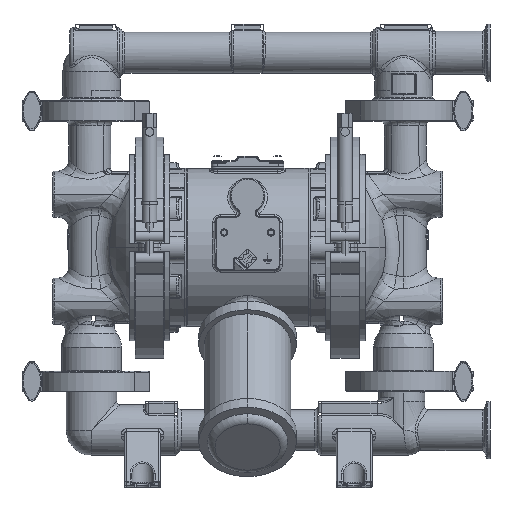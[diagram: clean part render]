
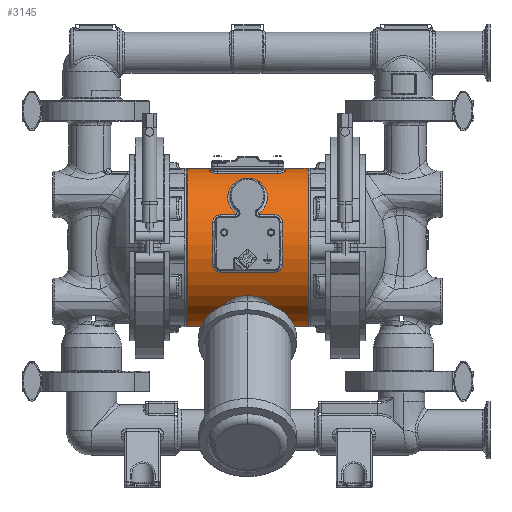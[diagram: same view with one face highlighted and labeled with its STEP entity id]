
A CAD part, top view. The second image highlights one B-rep face of the part: STEP entity #3145.
In plain terms, the highlighted cylindrical face has radius 69.85 mm (diameter 139.7 mm), a partial arc.
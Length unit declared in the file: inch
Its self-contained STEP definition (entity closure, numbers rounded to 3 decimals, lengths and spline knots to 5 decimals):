
#559=DIRECTION('',(1.,0.,0.));
#560=VECTOR('',#559,0.795);
#561=CARTESIAN_POINT('',(1.31,2.75,0.));
#562=LINE('',#561,#560);
#571=DIRECTION('',(1.,0.,0.));
#572=VECTOR('',#571,0.795);
#573=CARTESIAN_POINT('',(-2.105,2.75,0.));
#574=LINE('',#573,#572);
#1147=CARTESIAN_POINT('',(-1.31,2.64162,-0.76444));
#1149=CARTESIAN_POINT('',(-1.31,0.,0.));
#1150=DIRECTION('',(-1.,0.,0.));
#1151=DIRECTION('',(0.,0.961,-0.278));
#1152=AXIS2_PLACEMENT_3D('',#1149,#1150,#1151);
#1180=CARTESIAN_POINT('',(-1.31,1.61417,
-2.22642));
#1181=CARTESIAN_POINT('',(-1.31,1.59144,
-2.2429));
#1182=CARTESIAN_POINT('',(-1.30677,1.54774,
-2.27352));
#1183=CARTESIAN_POINT('',(-1.29563,1.48834,
-2.31276));
#1184=CARTESIAN_POINT('',(-1.28015,1.43434,
-2.34657));
#1185=CARTESIAN_POINT('',(-1.26151,1.38558,
-2.37563));
#1186=CARTESIAN_POINT('',(-1.24047,1.34181,
-2.40058));
#1187=CARTESIAN_POINT('',(-1.21742,1.30287,
-2.4219));
#1188=CARTESIAN_POINT('',(-1.1926,1.26881,
-2.43989));
#1189=CARTESIAN_POINT('',(-1.16609,1.23975,
-2.45475));
#1190=CARTESIAN_POINT('',(-1.13794,1.21615,
-2.4665));
#1191=CARTESIAN_POINT('',(-1.10831,1.19868,
-2.47502));
#1192=CARTESIAN_POINT('',(-1.07806,1.18849,
-2.47992));
#1193=CARTESIAN_POINT('',(-1.05923,1.18649,
-2.48087));
#1194=CARTESIAN_POINT('',(-1.05,1.1865,
-2.48087));
#1205=DIRECTION('',(1.,0.,0.));
#1206=VECTOR('',#1205,2.1);
#1207=CARTESIAN_POINT('',(-1.05,1.1865,
-2.48087));
#1208=LINE('',#1207,#1206);
#1230=CARTESIAN_POINT('',(1.05,1.1865,-2.48087));
#1231=CARTESIAN_POINT('',(1.05923,1.18649,-2.48087));
#1232=CARTESIAN_POINT('',(1.07806,1.18849,-2.47992));
#1233=CARTESIAN_POINT('',(1.10831,1.19868,-2.47502));
#1234=CARTESIAN_POINT('',(1.13794,1.21615,-2.4665));
#1235=CARTESIAN_POINT('',(1.16609,1.23975,-2.45475));
#1236=CARTESIAN_POINT('',(1.1926,1.26881,-2.43989));
#1237=CARTESIAN_POINT('',(1.21742,1.30287,-2.4219));
#1238=CARTESIAN_POINT('',(1.24047,1.34181,-2.40058));
#1239=CARTESIAN_POINT('',(1.26151,1.38558,-2.37563));
#1240=CARTESIAN_POINT('',(1.28015,1.43434,-2.34657));
#1241=CARTESIAN_POINT('',(1.29563,1.48834,-2.31276));
#1242=CARTESIAN_POINT('',(1.30677,1.54774,-2.27352));
#1243=CARTESIAN_POINT('',(1.31,1.59144,-2.2429));
#1244=CARTESIAN_POINT('',(1.31,1.61417,-2.22642));
#1246=CARTESIAN_POINT('',(1.31,2.64162,-0.76444));
#1269=CARTESIAN_POINT('',(1.31,0.,0.));
#1270=DIRECTION('',(1.,0.,0.));
#1271=DIRECTION('',(0.,0.587,-0.81));
#1272=AXIS2_PLACEMENT_3D('',#1269,#1270,#1271);
#1284=CARTESIAN_POINT('',(-1.31,0.,0.));
#1285=DIRECTION('',(-1.,0.,0.));
#1286=DIRECTION('',(0.,0.968,0.249));
#1287=AXIS2_PLACEMENT_3D('',#1284,#1285,#1286);
#1305=CARTESIAN_POINT('',(-1.05,2.58454,
0.9395));
#1306=CARTESIAN_POINT('',(-1.06915,2.58454,
0.9395));
#1307=CARTESIAN_POINT('',(-1.10657,2.586,
0.93549));
#1308=CARTESIAN_POINT('',(-1.16145,2.59256,
0.91726));
#1309=CARTESIAN_POINT('',(-1.21094,2.60291,
0.88759));
#1310=CARTESIAN_POINT('',(-1.25313,2.61634,
0.84735));
#1311=CARTESIAN_POINT('',(-1.28546,2.63179,
0.79825));
#1312=CARTESIAN_POINT('',(-1.30566,2.64816,
0.74224));
#1313=CARTESIAN_POINT('',(-1.31,2.65832,
0.70442));
#1314=CARTESIAN_POINT('',(-1.31,2.66331,
0.68505));
#1325=DIRECTION('',(-1.,0.,0.));
#1326=VECTOR('',#1325,2.1);
#1327=CARTESIAN_POINT('',(1.05,2.58454,0.9395));
#1328=LINE('',#1327,#1326);
#1345=CARTESIAN_POINT('',(1.31,2.66331,0.68505));
#1346=CARTESIAN_POINT('',(1.31,2.65832,0.70442));
#1347=CARTESIAN_POINT('',(1.30566,2.64816,0.74224));
#1348=CARTESIAN_POINT('',(1.28546,2.63179,0.79825));
#1349=CARTESIAN_POINT('',(1.25313,2.61634,0.84735));
#1350=CARTESIAN_POINT('',(1.21094,2.60291,0.88759));
#1351=CARTESIAN_POINT('',(1.16145,2.59256,0.91726));
#1352=CARTESIAN_POINT('',(1.10657,2.586,0.93549));
#1353=CARTESIAN_POINT('',(1.06915,2.58454,0.9395));
#1354=CARTESIAN_POINT('',(1.05,2.58454,0.9395));
#1356=CARTESIAN_POINT('',(1.31,0.,0.));
#1357=DIRECTION('',(1.,0.,0.));
#1358=DIRECTION('',(0.,1.,0.));
#1359=AXIS2_PLACEMENT_3D('',#1356,#1357,#1358);
#1464=CARTESIAN_POINT('',(-1.31,2.75,0.));
#1533=CARTESIAN_POINT('',(1.31,2.75,0.));
#1619=DIRECTION('',(1.,0.,0.));
#1620=VECTOR('',#1619,0.795);
#1621=CARTESIAN_POINT('',(-2.105,2.64162,-0.76444));
#1622=LINE('',#1621,#1620);
#1646=DIRECTION('',(1.,0.,0.));
#1647=VECTOR('',#1646,0.795);
#1648=CARTESIAN_POINT('',(1.31,2.64162,-0.76444));
#1649=LINE('',#1648,#1647);
#2502=CARTESIAN_POINT('',(-2.105,0.,0.));
#2503=DIRECTION('',(1.,0.,0.));
#2504=DIRECTION('',(0.,1.,0.));
#2505=AXIS2_PLACEMENT_3D('',#2502,#2503,#2504);
#2517=CARTESIAN_POINT('',(2.105,0.,0.));
#2518=DIRECTION('',(-1.,0.,0.));
#2519=DIRECTION('',(0.,0.961,-0.278));
#2520=AXIS2_PLACEMENT_3D('',#2517,#2518,#2519);
#2646=VERTEX_POINT('',#1230);
#2647=VERTEX_POINT('',#1244);
#2650=CARTESIAN_POINT('',(-1.05,1.1865,
-2.48087));
#2651=VERTEX_POINT('',#2650);
#2653=VERTEX_POINT('',#1180);
#2656=VERTEX_POINT('',#1305);
#2657=VERTEX_POINT('',#1314);
#2660=CARTESIAN_POINT('',(1.05,2.58454,0.9395));
#2661=VERTEX_POINT('',#2660);
#2663=VERTEX_POINT('',#1345);
#2681=VERTEX_POINT('',#1464);
#2703=VERTEX_POINT('',#1533);
#2712=VERTEX_POINT('',#1147);
#2716=VERTEX_POINT('',#1246);
#3037=CARTESIAN_POINT('',(-2.105,2.75,0.));
#3039=VERTEX_POINT('',#3037);
#3040=CARTESIAN_POINT('',(-2.105,2.64162,-0.76444));
#3041=VERTEX_POINT('',#3040);
#3053=CARTESIAN_POINT('',(2.105,2.64162,-0.76444));
#3054=VERTEX_POINT('',#3053);
#3055=CARTESIAN_POINT('',(2.105,2.75,0.));
#3056=VERTEX_POINT('',#3055);
#3106=CARTESIAN_POINT('',(-2.155,0.,0.));
#3107=DIRECTION('',(1.,0.,0.));
#3108=DIRECTION('',(0.,0.,-1.));
#3109=AXIS2_PLACEMENT_3D('',#3106,#3107,#3108);
#3110=CYLINDRICAL_SURFACE('',#3109,2.75);
#3112=ORIENTED_EDGE('',*,*,#3111,.F.);
#3114=ORIENTED_EDGE('',*,*,#3113,.T.);
#3116=ORIENTED_EDGE('',*,*,#3115,.F.);
#3118=ORIENTED_EDGE('',*,*,#3117,.F.);
#3120=ORIENTED_EDGE('',*,*,#3119,.F.);
#3122=ORIENTED_EDGE('',*,*,#3121,.F.);
#3124=ORIENTED_EDGE('',*,*,#3123,.F.);
#3126=ORIENTED_EDGE('',*,*,#3125,.T.);
#3128=ORIENTED_EDGE('',*,*,#3127,.F.);
#3130=ORIENTED_EDGE('',*,*,#3129,.F.);
#3132=ORIENTED_EDGE('',*,*,#3131,.F.);
#3134=ORIENTED_EDGE('',*,*,#3133,.F.);
#3136=ORIENTED_EDGE('',*,*,#3135,.F.);
#3138=ORIENTED_EDGE('',*,*,#3137,.F.);
#3140=ORIENTED_EDGE('',*,*,#3139,.F.);
#3142=ORIENTED_EDGE('',*,*,#3141,.F.);
#3143=EDGE_LOOP('',(#3112,#3114,#3116,#3118,#3120,#3122,#3124,#3126,#3128,#3130,
#3132,#3134,#3136,#3138,#3140,#3142));
#3144=FACE_OUTER_BOUND('',#3143,.F.);
#3145=ADVANCED_FACE('',(#3144),#3110,.T.);
#1153=CIRCLE('',#1152,2.75);
#1195=B_SPLINE_CURVE_WITH_KNOTS('',3,(#1180,#1181,#1182,#1183,#1184,#1185,#1186,
#1187,#1188,#1189,#1190,#1191,#1192,#1193,#1194),.UNSPECIFIED.,.F.,.F.,(4,1,1,1,
1,1,1,1,1,1,1,1,4),(0.,0.08333,0.16667,0.25,
0.33333,0.41667,0.5,0.58333,0.66667,
0.75,0.83333,0.91667,1.),.UNSPECIFIED.);
#1245=B_SPLINE_CURVE_WITH_KNOTS('',3,(#1230,#1231,#1232,#1233,#1234,#1235,#1236,
#1237,#1238,#1239,#1240,#1241,#1242,#1243,#1244),.UNSPECIFIED.,.F.,.F.,(4,1,1,1,
1,1,1,1,1,1,1,1,4),(0.,0.08333,0.16667,0.25,
0.33333,0.41667,0.5,0.58333,0.66667,
0.75,0.83333,0.91667,1.),.UNSPECIFIED.);
#1273=CIRCLE('',#1272,2.75);
#1288=CIRCLE('',#1287,2.75);
#1315=B_SPLINE_CURVE_WITH_KNOTS('',3,(#1305,#1306,#1307,#1308,#1309,#1310,#1311,
#1312,#1313,#1314),.UNSPECIFIED.,.F.,.F.,(4,1,1,1,1,1,1,4),(0.,
0.14286,0.28571,0.42857,0.57143,
0.71429,0.85714,1.),.UNSPECIFIED.);
#1355=B_SPLINE_CURVE_WITH_KNOTS('',3,(#1345,#1346,#1347,#1348,#1349,#1350,#1351,
#1352,#1353,#1354),.UNSPECIFIED.,.F.,.F.,(4,1,1,1,1,1,1,4),(0.,
0.14286,0.28571,0.42857,0.57143,
0.71429,0.85714,1.),.UNSPECIFIED.);
#1360=CIRCLE('',#1359,2.75);
#2506=CIRCLE('',#2505,2.75);
#2521=CIRCLE('',#2520,2.75);
#3111=EDGE_CURVE('',#3039,#3041,#2506,.T.);
#3113=EDGE_CURVE('',#3039,#2681,#574,.T.);
#3115=EDGE_CURVE('',#2657,#2681,#1288,.T.);
#3117=EDGE_CURVE('',#2656,#2657,#1315,.T.);
#3119=EDGE_CURVE('',#2661,#2656,#1328,.T.);
#3121=EDGE_CURVE('',#2663,#2661,#1355,.T.);
#3123=EDGE_CURVE('',#2703,#2663,#1360,.T.);
#3125=EDGE_CURVE('',#2703,#3056,#562,.T.);
#3127=EDGE_CURVE('',#3054,#3056,#2521,.T.);
#3129=EDGE_CURVE('',#2716,#3054,#1649,.T.);
#3131=EDGE_CURVE('',#2647,#2716,#1273,.T.);
#3133=EDGE_CURVE('',#2646,#2647,#1245,.T.);
#3135=EDGE_CURVE('',#2651,#2646,#1208,.T.);
#3137=EDGE_CURVE('',#2653,#2651,#1195,.T.);
#3139=EDGE_CURVE('',#2712,#2653,#1153,.T.);
#3141=EDGE_CURVE('',#3041,#2712,#1622,.T.);
